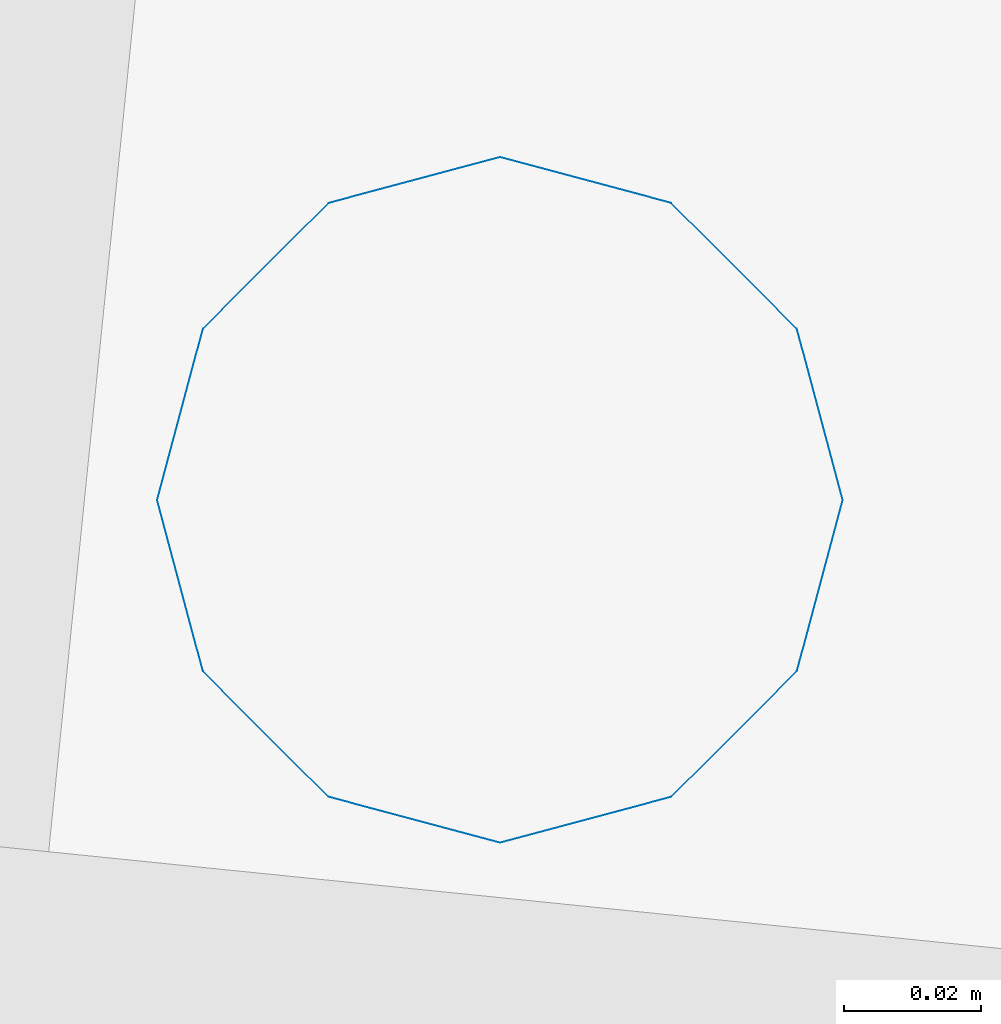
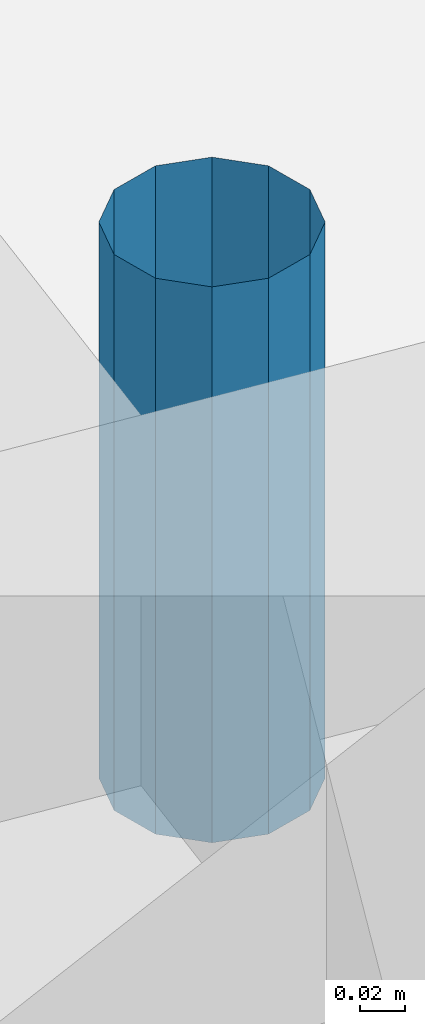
# One storey, part 27 of 41: 1 discrete accessory.
"""IFC2X3 building model written with IfcOpenShell, lengths in millimetres."""

import ifcopenshell
import ifcopenshell.guid

model = None  # the IFC model being written
_history = None  # IfcOwnerHistory: only IFC2X3 demands one
_inside = {}  # id of a spatial element -> (the spatial element, [elements in it])
_under = {}  # id of a project, library or spatial element -> (it, [spatial elements below it])
_declared = {}  # id of a project -> (the project, [libraries it declares])
_typed = {}  # id of a type object -> (the type object, [elements of that type])
_made_of = {}  # id of a material, layer set ... -> (it, [elements and type objects made of it])


def new_model(schema):
    """Start an empty IFC model of exactly this schema.

    Asked for "IFC4X3", IfcOpenShell would pick the latest addendum, in which some entities
    have other attributes; the version numbers below select the first issue.
    IFC2X3 requires an IfcOwnerHistory on every rooted entity: one is made here for all.
    """
    global model, _history
    if schema == "IFC4X3":
        model = ifcopenshell.file(schema_version=(4, 3, 0, 0))
    else:
        model = ifcopenshell.file(schema=schema)
    _inside.clear()
    _under.clear()
    _declared.clear()
    _typed.clear()
    _made_of.clear()
    _history = None
    if model.schema == "IFC2X3":
        org = make("IfcOrganization", Name="unknown")
        user = make(
            "IfcPersonAndOrganization",
            ThePerson=make("IfcPerson", FamilyName="unknown"),
            TheOrganization=org,
        )
        app = make(
            "IfcApplication",
            ApplicationDeveloper=org,
            Version="unknown",
            ApplicationFullName="unknown",
            ApplicationIdentifier="unknown",
        )
        _history = make(
            "IfcOwnerHistory",
            OwningUser=user,
            OwningApplication=app,
            ChangeAction="ADDED",
            CreationDate=0,
        )
    return model


def make(cls, **values):
    """One entity of the class cls with the attributes given. An attribute that is None is left unset."""
    return model.create_entity(
        cls, **{name: value for name, value in values.items() if value is not None}
    )


def entity(cls, *values):
    """Any entity or typed value of the class cls, its attributes in the order of the schema. None: left unset."""
    e = model.create_entity(cls)
    for i, value in enumerate(values):
        if value is not None:
            e[i] = value
    return e


def rooted(cls, **values):
    """An entity with a GlobalId (a new one), such as an element, a storey or a relation."""
    return make(cls, GlobalId=ifcopenshell.guid.new(), OwnerHistory=_history, **values)


def si_unit(unit_type, name, prefix=None):
    """IfcSIUnit, for example si_unit("LENGTHUNIT", "METRE", prefix="MILLI")."""
    return make("IfcSIUnit", UnitType=unit_type, Prefix=prefix, Name=name)


def converted_unit(unit_type, name, factor, base, dimensions=None, offset=None):
    """IfcConversionBasedUnit, such as the inch: factor (a typed value) times the base unit."""
    return make(
        "IfcConversionBasedUnit"
        if offset is None
        else "IfcConversionBasedUnitWithOffset",
        ConversionOffset=offset,
        Dimensions=None
        if dimensions is None
        else entity("IfcDimensionalExponents", *dimensions),
        UnitType=unit_type,
        Name=name,
        ConversionFactor=make(
            "IfcMeasureWithUnit", ValueComponent=factor, UnitComponent=base
        ),
    )


def derived_unit(unit_type, elements):
    """IfcDerivedUnit: a product of units, each with its exponent."""
    return make(
        "IfcDerivedUnit",
        Elements=[
            make("IfcDerivedUnitElement", Unit=unit, Exponent=power)
            for unit, power in elements
        ],
        UnitType=unit_type,
    )


def money_unit(currency):
    """IfcMonetaryUnit."""
    return make("IfcMonetaryUnit", Currency=currency)


def assignment(units):
    """IfcUnitAssignment: the units of a project."""
    return None if units is None else make("IfcUnitAssignment", Units=units)


def point(xyz):
    """IfcCartesianPoint."""
    return None if xyz is None else make("IfcCartesianPoint", Coordinates=xyz)


def direction(xyz):
    """IfcDirection."""
    return None if xyz is None else make("IfcDirection", DirectionRatios=xyz)


def frame(location, z_axis=None, x_axis=None):
    """IfcAxis2Placement3D, a coordinate frame: its origin and axes. An axis left out is left unset."""
    return make(
        "IfcAxis2Placement3D",
        Location=point(location),
        Axis=direction(z_axis),
        RefDirection=direction(x_axis),
    )


def origin_with_axes():
    """The frame at (0, 0, 0) with the z axis (0, 0, 1) and the x axis (1, 0, 0) written out."""
    return frame((0.0, 0.0, 0.0), z_axis=(0.0, 0.0, 1.0), x_axis=(1.0, 0.0, 0.0))


def place(relative_to, where):
    """IfcLocalPlacement: puts the frame where relative to a parent placement (None: the world)."""
    return make(
        "IfcLocalPlacement", PlacementRelTo=relative_to, RelativePlacement=where
    )


def context(
    kind, dimensions, precision=None, world=None, true_north=None, identifier=None
):
    """IfcGeometricRepresentationContext, for example the 3D "Model" context."""
    return make(
        "IfcGeometricRepresentationContext",
        ContextIdentifier=identifier,
        ContextType=kind,
        CoordinateSpaceDimension=dimensions,
        Precision=precision,
        WorldCoordinateSystem=world,
        TrueNorth=true_north,
    )


def subcontext(parent, identifier, kind, view, scale=None):
    """IfcGeometricRepresentationSubContext, for example "Body" below "Model"."""
    return make(
        "IfcGeometricRepresentationSubContext",
        ContextIdentifier=identifier,
        ContextType=kind,
        ParentContext=parent,
        TargetScale=scale,
        TargetView=view,
    )


def project(units=None, contexts=None):
    """IfcProject with its units and contexts."""
    return rooted(
        "IfcProject",
        Name="project",
        RepresentationContexts=contexts,
        UnitsInContext=assignment(units),
    )


def spatial(cls, under=None, at=None, **own):
    """A site, building, storey or space (cls), placed at a placement, below another one or the project."""
    s = rooted(cls, ObjectPlacement=at, **own)
    if under is not None:
        _under.setdefault(under.id(), (under, []))[1].append(s)
    return s


def faces_of(points, faces, orient=None, outer=None):
    """IfcFace entities. A face is a list of loops; a loop is a list of indices into points, from 0.

    orient and outer hold one flag for each loop. By default every Orientation is true, the
    first loop of a face is its IfcFaceOuterBound and the others are IfcFaceBound.
    """
    made = []
    for i, loops in enumerate(faces):
        bounds = []
        for j, loop in enumerate(loops):
            is_outer = j == 0 if outer is None else outer[i][j]
            bounds.append(
                make(
                    "IfcFaceOuterBound" if is_outer else "IfcFaceBound",
                    Bound=make("IfcPolyLoop", Polygon=[points[k] for k in loop]),
                    Orientation=True if orient is None else orient[i][j],
                )
            )
        made.append(make("IfcFace", Bounds=bounds))
    return made


def open_shell(faces, orient=None, outer=None):
    """The faces of one IfcOpenShell. surface_model builds it on its shared points."""
    return ("IfcOpenShell", faces, orient, outer)


def surface_model(cls, points, shells):
    """IfcFaceBasedSurfaceModel or IfcShellBasedSurfaceModel (cls): surfaces that need not close."""
    shared = [point(p) for p in points]
    made = [make(c, CfsFaces=faces_of(shared, fs, o, b)) for c, fs, o, b in shells]
    if cls == "IfcFaceBasedSurfaceModel":
        return make(cls, FbsmFaces=made)
    return make(cls, SbsmBoundary=made)


def shape(context_of_items, identifier, shape_type, items):
    """IfcShapeRepresentation: the items that make up one representation, for example the "Body"."""
    return make(
        "IfcShapeRepresentation",
        ContextOfItems=context_of_items,
        RepresentationIdentifier=identifier,
        RepresentationType=shape_type,
        Items=items,
    )


def source(mapping_origin, context_of_items, identifier, shape_type, items):
    """IfcRepresentationMap: a shape defined once, which mapped items show again and again."""
    return make(
        "IfcRepresentationMap",
        MappingOrigin=mapping_origin,
        MappedRepresentation=shape(context_of_items, identifier, shape_type, items),
    )


def transform(
    local_origin,
    x_axis=None,
    y_axis=None,
    z_axis=None,
    scale=None,
    scale2=None,
    scale3=None,
    uniform=True,
):
    """IfcCartesianTransformationOperator3D, or its non-uniform kind. x_axis, y_axis, z_axis: its Axis1, 2, 3."""
    if uniform:
        return make(
            "IfcCartesianTransformationOperator3D",
            Axis1=direction(x_axis),
            Axis2=direction(y_axis),
            LocalOrigin=point(local_origin),
            Scale=scale,
            Axis3=direction(z_axis),
        )
    return make(
        "IfcCartesianTransformationOperator3DnonUniform",
        Axis1=direction(x_axis),
        Axis2=direction(y_axis),
        LocalOrigin=point(local_origin),
        Scale=scale,
        Axis3=direction(z_axis),
        Scale2=scale2,
        Scale3=scale3,
    )


def mapped(mapping_source, mapping_target):
    """IfcMappedItem: shows the shape of a source again, moved by a transform."""
    return make(
        "IfcMappedItem", MappingSource=mapping_source, MappingTarget=mapping_target
    )


def made_of(thing, what):
    """Note that an element or type object is made of a material, layer set ...; save() writes the relation."""
    if what is not None:
        _made_of.setdefault(what.id(), (what, []))[1].append(thing)
    return thing


def type_object(cls, material=None, **own):
    """A type object (cls), such as IfcWallType, which elements share."""
    return made_of(rooted(cls, **own), material)


def element(
    cls,
    number,
    at=None,
    inside=None,
    cuts=None,
    type_object=None,
    material=None,
    context=None,
    identifier="Body",
    shape_type=None,
    held_by="IfcProductDefinitionShape",
    body=None,
    shapes=None,
    **own,
):
    """One element of the class cls, such as IfcWall. Its Tag is "e" and its number.

    at: its placement. inside: the storey or other place that contains it. cuts: it is an
    opening in that element (IfcRelVoidsElement). A single representation is given by context,
    identifier, shape_type and body (its items); several are given by shapes. held_by: the class
    of the entity that holds the representations. save() writes the other relations.
    """
    e = rooted(cls, Tag="e%d" % number, ObjectPlacement=at, **own)
    if body is not None:
        shapes = [shape(context, identifier, shape_type, body)]
    if shapes is not None:
        e.Representation = make(held_by, Representations=shapes)
    if inside is not None:
        _inside.setdefault(inside.id(), (inside, []))[1].append(e)
    if cuts is not None:
        rooted(
            "IfcRelVoidsElement", RelatingBuildingElement=cuts, RelatedOpeningElement=e
        )
    if type_object is not None:
        _typed.setdefault(type_object.id(), (type_object, []))[1].append(e)
    return made_of(e, material)


def aggregate(whole, parts):
    """IfcRelAggregates: a whole, such as a stair, and the parts it consists of."""
    return rooted("IfcRelAggregates", RelatingObject=whole, RelatedObjects=parts)


def save(model, path):
    """Write the relations noted so far, then the file.

    IfcRelAggregates (storeys below a building ...), IfcRelContainedInSpatialStructure (elements
    in a storey), IfcRelDefinesByType, IfcRelAssociatesMaterial and IfcRelDeclares: one each for
    every whole, place, type object, material and project.
    """
    for whole, parts in _under.values():
        aggregate(whole, parts)
    for where, things in _inside.values():
        rooted(
            "IfcRelContainedInSpatialStructure",
            RelatedElements=things,
            RelatingStructure=where,
        )
    for kind, things in _typed.values():
        rooted("IfcRelDefinesByType", RelatedObjects=things, RelatingType=kind)
    for what, things in _made_of.values():
        rooted("IfcRelAssociatesMaterial", RelatedObjects=things, RelatingMaterial=what)
    for by, libraries in _declared.values():
        rooted("IfcRelDeclares", RelatingContext=by, RelatedDefinitions=libraries)
    model.write(path)


model = new_model("IFC2X3")

# Units and contexts
model_context = context("Model", 3, precision=0.01, world=origin_with_axes(), true_north=direction((0.0, 1.0)))
body_context = subcontext(model_context, "Body", "Model", "MODEL_VIEW")
ifc_project = project(units=[si_unit("LENGTHUNIT", "METRE", prefix="MILLI"), si_unit("AREAUNIT", "SQUARE_METRE"), si_unit("VOLUMEUNIT", "CUBIC_METRE"), converted_unit("PLANEANGLEUNIT", "DEGREE", entity("IfcPlaneAngleMeasure", 0.0174532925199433), si_unit("PLANEANGLEUNIT", "RADIAN"), dimensions=[0, 0, 0, 0, 0, 0, 0]), money_unit("USD"), converted_unit("TIMEUNIT", "Year", entity("IfcTimeMeasure", 31557600.0), si_unit("TIMEUNIT", "SECOND"), dimensions=[0, 0, 1, 0, 0, 0, 0]), si_unit("MASSUNIT", "GRAM", prefix="KILO"), si_unit("THERMODYNAMICTEMPERATUREUNIT", "DEGREE_CELSIUS"), si_unit("LUMINOUSINTENSITYUNIT", "LUMEN"), si_unit("ENERGYUNIT", "JOULE", prefix="MEGA"), derived_unit("THERMALCONDUCTANCEUNIT", [(si_unit("POWERUNIT", "WATT"), 1), (si_unit("LENGTHUNIT", "METRE"), -1), (si_unit("THERMODYNAMICTEMPERATUREUNIT", "KELVIN"), -1)]), derived_unit("SPECIFICHEATCAPACITYUNIT", [(si_unit("ENERGYUNIT", "JOULE"), 1), (si_unit("MASSUNIT", "GRAM", prefix="KILO"), -1), (si_unit("THERMODYNAMICTEMPERATUREUNIT", "KELVIN"), -1)]), derived_unit("MASSDENSITYUNIT", [(si_unit("MASSUNIT", "GRAM", prefix="KILO"), 1), (si_unit("VOLUMEUNIT", "CUBIC_METRE"), -1)])], contexts=[model_context])

# Site, building, storey
site_placement = place(None, origin_with_axes())
site = spatial("IfcSite", under=ifc_project, at=site_placement, Name="Site", CompositionType="ELEMENT")
building_placement = place(site_placement, origin_with_axes())
building = spatial("IfcBuilding", under=site, at=building_placement, Name="Bâtiment", CompositionType="ELEMENT")
storey_placement = place(building_placement, origin_with_axes())
storey = spatial("IfcBuildingStorey", under=building, at=storey_placement, Name="sousol", CompositionType="ELEMENT", Elevation=0.0)

# Discrete accessory
discrete_accessory_type = type_object("IfcDiscreteAccessoryType", Name="Tuyau descente 27")
shared_shape = source(origin_with_axes(), body_context, "Body", "SurfaceModel", [
    surface_model("IfcShellBasedSurfaceModel", [(50.0, 0.0, 300.0), (43.30127018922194, -25.0, 300.0), (43.30127018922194, -25.0, 0.0), (50.0, 0.0, 0.0), (25.00000000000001, -43.30127018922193, 300.0), (25.00000000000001, -43.30127018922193, 0.0), (43.30127018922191, 25.00000000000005, 300.0), (43.30127018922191, 25.00000000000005, 0.0), (0.0, -50.0, 300.0), (0.0, -50.0, 0.0), (24.99999999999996, 43.30127018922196, 300.0), (24.99999999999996, 43.30127018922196, 0.0), (-24.99999999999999, -43.30127018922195, 300.0), (-24.99999999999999, -43.30127018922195, 0.0), (0.0, 50.0, 300.0), (0.0, 50.0, 0.0), (-43.30127018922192, -25.00000000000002, 300.0), (-43.30127018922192, -25.00000000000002, 0.0), (-25.00000000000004, 43.30127018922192, 300.0), (-25.00000000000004, 43.30127018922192, 0.0), (-50.0, 0.0, 300.0), (-50.0, 0.0, 0.0), (-43.30127018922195, 24.99999999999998, 300.0), (-43.30127018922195, 24.99999999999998, 0.0)], [open_shell([[[0, 1, 2, 3]], [[1, 4, 5, 2]], [[6, 0, 3, 7]], [[4, 8, 9, 5]], [[10, 6, 7, 11]], [[8, 12, 13, 9]], [[14, 10, 11, 15]], [[12, 16, 17, 13]], [[18, 14, 15, 19]], [[16, 20, 21, 17]], [[22, 18, 19, 23]], [[20, 22, 23, 21]]])]),
])
discrete_accessory_placement = place(storey_placement, frame((2225110.857773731, -616801.4339572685, 2700.0), z_axis=(0.0, 0.0, 1.0), x_axis=(1.0, 0.0, 0.0)))
element("IfcDiscreteAccessory", 1, at=discrete_accessory_placement, inside=storey, type_object=discrete_accessory_type, Name="Obj.-318", context=body_context, shape_type="MappedRepresentation", body=[
    mapped(shared_shape, transform((0.0, 0.0, 0.0))),
])

save(model, "model.ifc")
